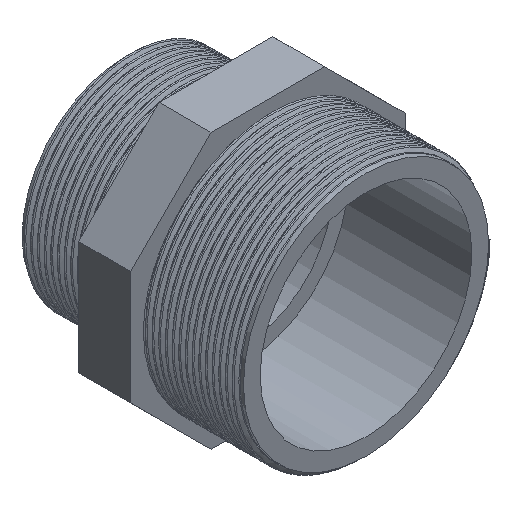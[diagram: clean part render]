
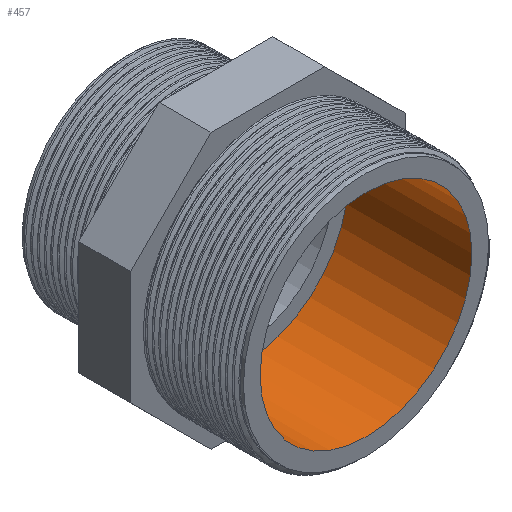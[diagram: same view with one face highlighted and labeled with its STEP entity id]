
A CAD part, isometric view. The second image highlights one B-rep face of the part: STEP entity #457.
In plain terms, the highlighted cylindrical face has radius 36.65 mm (diameter 73.3 mm), a full revolution.
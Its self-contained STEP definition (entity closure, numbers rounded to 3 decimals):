
#15=CYLINDRICAL_SURFACE('',#486,36.65);
#20=FACE_BOUND('',#97,.T.);
#47=CIRCLE('',#484,36.65);
#49=CIRCLE('',#487,36.65);
#66=FACE_OUTER_BOUND('',#96,.T.);
#96=EDGE_LOOP('',(#362));
#97=EDGE_LOOP('',(#363));
#222=VERTEX_POINT('',#11628);
#224=VERTEX_POINT('',#11633);
#276=EDGE_CURVE('',#222,#222,#47,.T.);
#278=EDGE_CURVE('',#224,#224,#49,.T.);
#362=ORIENTED_EDGE('',*,*,#276,.F.);
#363=ORIENTED_EDGE('',*,*,#278,.F.);
#457=ADVANCED_FACE('',(#66,#20),#15,.F.);
#484=AXIS2_PLACEMENT_3D('',#11629,#532,#533);
#486=AXIS2_PLACEMENT_3D('',#11632,#536,#537);
#487=AXIS2_PLACEMENT_3D('',#11634,#538,#539);
#532=DIRECTION('center_axis',(0.,-1.,0.));
#533=DIRECTION('ref_axis',(-1.,0.,0.));
#536=DIRECTION('center_axis',(0.,-1.,0.));
#537=DIRECTION('ref_axis',(-1.,0.,0.));
#538=DIRECTION('center_axis',(0.,1.,0.));
#539=DIRECTION('ref_axis',(-1.,0.,0.));
#11628=CARTESIAN_POINT('',(36.65,0.,0.));
#11629=CARTESIAN_POINT('Origin',(0.,0.,0.));
#11632=CARTESIAN_POINT('Origin',(0.,-9.,0.));
#11633=CARTESIAN_POINT('',(36.65,-43.,0.));
#11634=CARTESIAN_POINT('Origin',(0.,-43.,0.));
